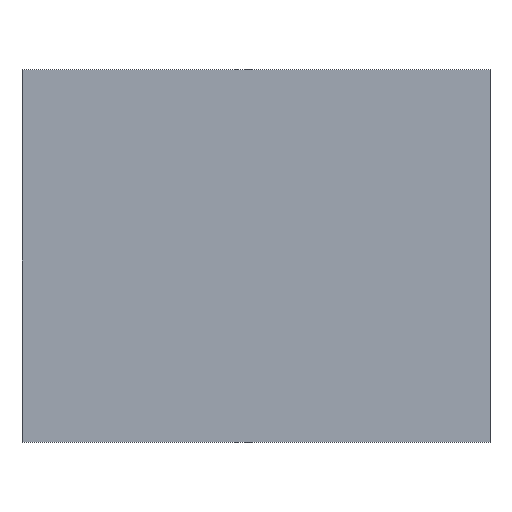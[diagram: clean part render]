
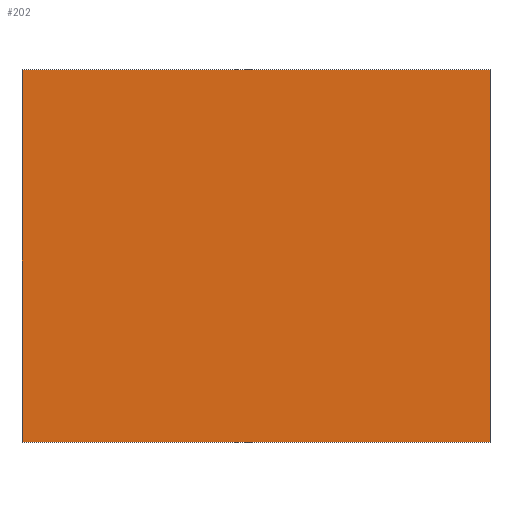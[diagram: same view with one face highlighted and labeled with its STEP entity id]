
A CAD part, top view. The second image highlights one B-rep face of the part: STEP entity #202.
In plain terms, the highlighted planar face has unit normal (0, 0, 1).
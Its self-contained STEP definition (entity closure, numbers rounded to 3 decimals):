
#2 = EDGE_CURVE ( 'NONE', #146, #113, #64, .T. ) ;
#6 = AXIS2_PLACEMENT_3D ( 'NONE', #110, #145, #144 ) ;
#7 = EDGE_CURVE ( 'NONE', #191, #142, #56, .T. ) ;
#13 = EDGE_CURVE ( 'NONE', #142, #146, #84, .T. ) ;
#19 = EDGE_CURVE ( 'NONE', #113, #191, #82, .T. ) ;
#31 = ORIENTED_EDGE ( 'NONE', *, *, #7, .T. ) ;
#40 = ORIENTED_EDGE ( 'NONE', *, *, #13, .T. ) ;
#44 = VECTOR ( 'NONE', #185, 1000. ) ;
#51 = ORIENTED_EDGE ( 'NONE', *, *, #19, .T. ) ;
#52 = ORIENTED_EDGE ( 'NONE', *, *, #2, .T. ) ;
#56 = LINE ( 'NONE', #115, #83 ) ;
#64 = LINE ( 'NONE', #111, #85 ) ;
#68 = EDGE_LOOP ( 'NONE', ( #52, #51, #31, #40 ) ) ;
#75 = VECTOR ( 'NONE', #122, 1000. ) ;
#80 = FACE_OUTER_BOUND ( 'NONE', #68, .T. ) ;
#82 = LINE ( 'NONE', #123, #44 ) ;
#83 = VECTOR ( 'NONE', #125, 1000. ) ;
#84 = LINE ( 'NONE', #106, #75 ) ;
#85 = VECTOR ( 'NONE', #114, 1000. ) ;
#106 = CARTESIAN_POINT ( 'NONE',  ( -301., 479., 6. ) ) ;
#110 = CARTESIAN_POINT ( 'NONE',  ( -301., 479., 6. ) ) ;
#111 = CARTESIAN_POINT ( 'NONE',  ( -301., 0., 6. ) ) ;
#113 = VERTEX_POINT ( 'NONE', #175 ) ;
#114 = DIRECTION ( 'NONE',  ( 0., -1., 0. ) ) ;
#115 = CARTESIAN_POINT ( 'NONE',  ( 301., 0., 6. ) ) ;
#122 = DIRECTION ( 'NONE',  ( -1., 0., 0. ) ) ;
#123 = CARTESIAN_POINT ( 'NONE',  ( -301., 0., 6. ) ) ;
#125 = DIRECTION ( 'NONE',  ( 0., 1., 0. ) ) ;
#142 = VERTEX_POINT ( 'NONE', #174 ) ;
#144 = DIRECTION ( 'NONE',  ( 0., 1., 0. ) ) ;
#145 = DIRECTION ( 'NONE',  ( 0., 0., -1. ) ) ;
#146 = VERTEX_POINT ( 'NONE', #180 ) ;
#153 = PLANE ( 'NONE',  #6 ) ;
#172 = CARTESIAN_POINT ( 'NONE',  ( 301., 0., 6. ) ) ;
#174 = CARTESIAN_POINT ( 'NONE',  ( 301., 479., 6. ) ) ;
#175 = CARTESIAN_POINT ( 'NONE',  ( -301., 0., 6. ) ) ;
#180 = CARTESIAN_POINT ( 'NONE',  ( -301., 479., 6. ) ) ;
#185 = DIRECTION ( 'NONE',  ( 1., 0., 0. ) ) ;
#191 = VERTEX_POINT ( 'NONE', #172 ) ;
#202 = ADVANCED_FACE ( 'NONE', ( #80 ), #153, .F. ) ;
